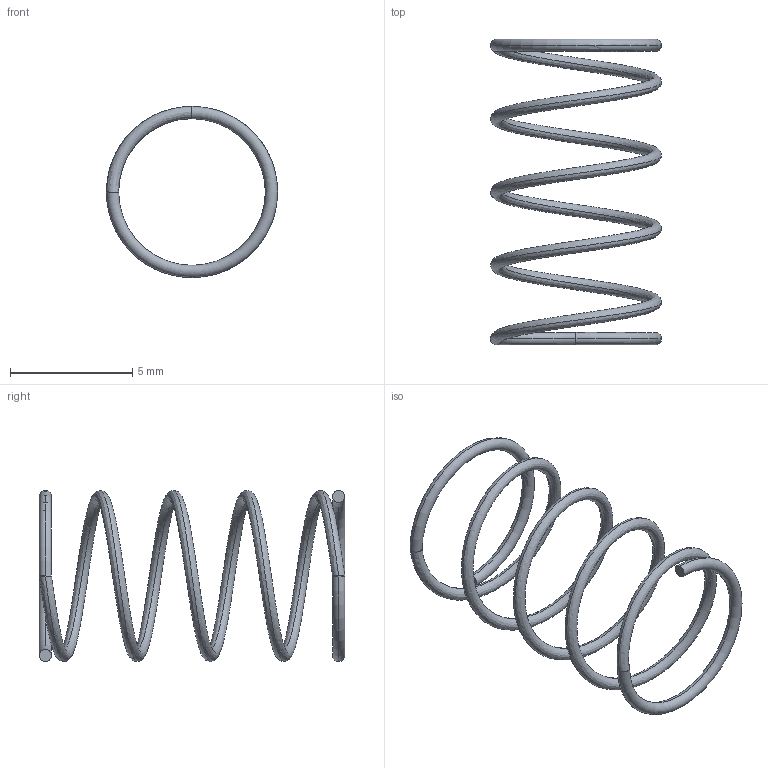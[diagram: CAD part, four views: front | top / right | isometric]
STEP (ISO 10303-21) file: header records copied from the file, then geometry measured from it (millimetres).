
FILE_DESCRIPTION((''),'2;1');
FILE_NAME('0_5X7X12MM_HC_SPRING','2024-02-22T09:44:17',('qinghui.yi'),(''),'CREO PARAMETRIC BY PTC INC, 2019164','CREO PARAMETRIC BY PTC INC, 2019164','');
FILE_SCHEMA(('CONFIG_CONTROL_DESIGN','SHAPE_APPEARANCE_LAYERS_GROUPS'));
Length unit declared in the file: millimetre
Products named in the file (1): 0_5X7X12MM_HC_SPRING
Bounding box: 7 x 12.5 x 7 mm (x, y, z)
Volume: 21.6 mm3; surface area: 175.7 mm2
Topology: 1 solids, 1 shells, 14 faces, 33 edges, 24 vertices
Faces by surface type: plane 8, torus 4, bspline 2
Entity records: 2126 total; most frequent: CARTESIAN_POINT 1436, COLOUR_RGB 312, DIRECTION 67, ORIENTED_EDGE 60, AXIS2_PLACEMENT_3D 32, EDGE_CURVE 30, CIRCLE 19, VERTEX_POINT 18
